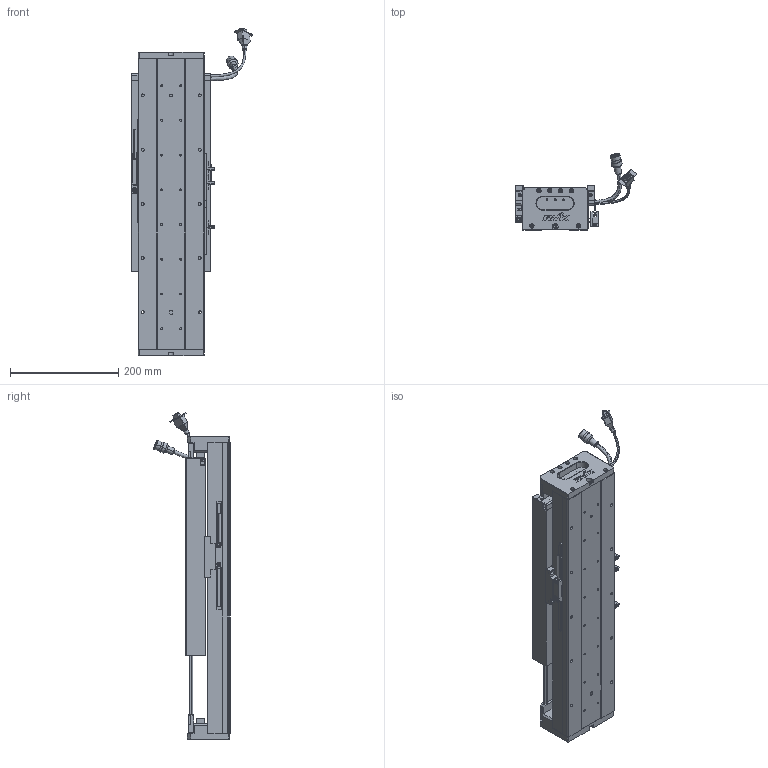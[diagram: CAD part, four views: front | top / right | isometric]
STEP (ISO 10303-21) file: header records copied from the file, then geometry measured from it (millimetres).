
FILE_DESCRIPTION (( 'STEP AP203' ), '1' );
FILE_NAME ('Z5-RY120D-1-L500-B-K.SLDASM_0100.step', '2021-05-17T06:20:48', ( '盈信电脑' ), ( '东莞市道滘镇水果街19号' ), 'SwSTEP 2.0', 'SolidWorks 2016', '' );
FILE_SCHEMA (( 'CONFIG_CONTROL_DESIGN' ));
Length unit declared in the file: millimetre
Products named in the file (37): Z5-RY120铝滑块（21款）; 140雄赽晤鎢ん堤盄; 672嫖萇羲壽假蚾釱; SCREW-M1.6-1; 120-Z-臏賑輸盄裔(21遴); HARNESS-Part-2; PBU_SHEET; LABEL-Part-1; Z5-RY120D-1-L500-B-K.SLDASM_0100; SCREW-M1.6-2; SEAL-Part-1; SEAL; 覜茼ん672; SCREW-M1.6; HARNESS-Part-1; PSLH080_PSLF2; SCREW-M1.7-1; SCALE-Part-1; Z-RY120D詩湍狟揤裔; Z-RY120D詩湍奻揤裔; COVER-Part-1; SCREW-M1.6-3; 140蚥薯蝶輸; SHIELDPLATE; Z5-RY120-L500詩湍100mm遵_0100; Z5-RY120-500-倰第菁釱_0100; LABEL; SCALE-Part-2; 080黍杅芛假蚾釱21遴; 榋妏寠巭燃_暯_M2_2; Z-120詩湍傷裔啣; HOLDER0; HARNESS; COVER; SCALE; RY100FB-遵嫖萇覜茼え; SCREW-M1.7
Assembly tree (43 placements, depth 4):
  Z5-RY120D-1-L500-B-K.SLDASM_0100
    Z5-RY120-500-倰第菁釱_0100
    覜茼ん672  x3
    672嫖萇羲壽假蚾釱  x2
    Z5-RY120铝滑块（21款）
    PSLH080_PSLF2
      SCALE
        SCALE-Part-1
        SCALE-Part-2
      HARNESS
        HARNESS-Part-1
        HARNESS-Part-2
      LABEL
        LABEL-Part-1
      COVER
        COVER-Part-1
      SEAL
        SEAL-Part-1
      榋妏寠巭燃_暯_M2_2
      SHIELDPLATE
      SCREW-M1.7
      SCREW-M1.7-1
      PBU_SHEET
      SCREW-M1.6
      SCREW-M1.6-1
      SCREW-M1.6-2
      SCREW-M1.6-3
      HOLDER0
    080黍杅芛假蚾釱21遴
    120-Z-臏賑輸盄裔(21遴)
    140雄赽晤鎢ん堤盄
    140蚥薯蝶輸  x2
    RY100FB-遵嫖萇覜茼え
    Z-120詩湍傷裔啣  x2
    Z-RY120D詩湍奻揤裔  x2
    Z-RY120D詩湍狟揤裔  x2
    Z5-RY120-L500詩湍100mm遵_0100
Bounding box: 222.88 x 140.94 x 604 mm (x, y, z)
Volume: 2453379.9 mm3; surface area: 725934.7 mm2
Topology: 38 solids, 38 shells, 2581 faces, 6775 edges, 4286 vertices
Faces by surface type: cylinder 1127, plane 1090, cone 242, torus 69, bspline 53
Entity records: 73438 total; most frequent: CARTESIAN_POINT 17867, DIRECTION 10879, ORIENTED_EDGE 10590, EDGE_CURVE 5295, AXIS2_PLACEMENT_3D 3984, VERTEX_POINT 3406, VECTOR 2911, LINE 2911
